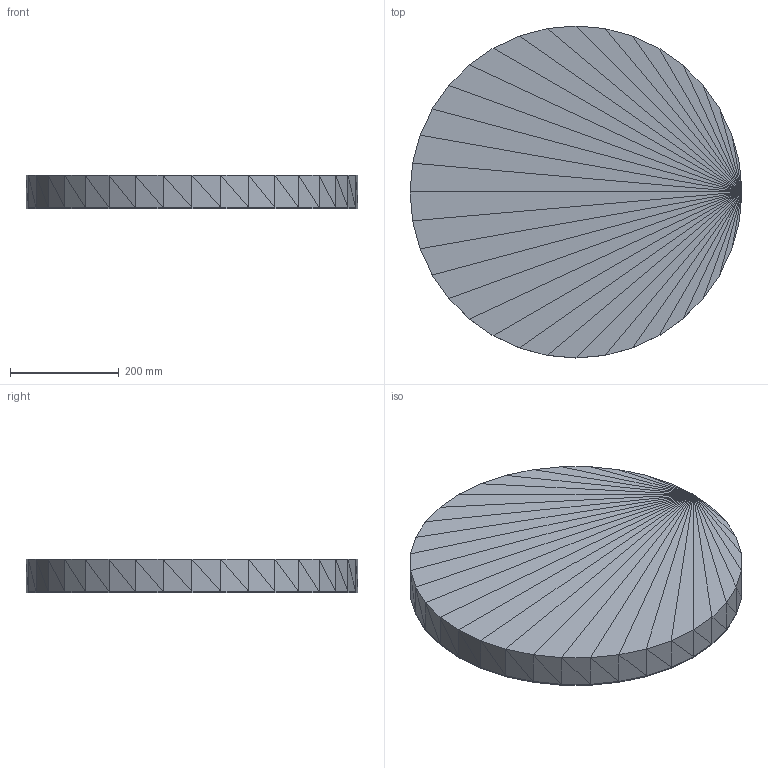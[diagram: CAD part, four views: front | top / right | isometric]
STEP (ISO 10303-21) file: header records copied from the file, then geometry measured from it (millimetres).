
FILE_DESCRIPTION(('ISINAC STEP AP214'),'2;1');
FILE_NAME('ISINAC_CIR.610_60mm_IMANTADA','2026-05-03T10:49:20',('ISINAC'),('www.isinac.com'),'ISINAC BIM Generator 1.0','','');
FILE_SCHEMA(('AUTOMOTIVE_DESIGN'));
Length unit declared in the file: millimetre
Products named in the file (1): ISINAC_CIR.610_60mm_IMANTADA
Bounding box: 610 x 610 x 62 mm (x, y, z)
Surface area: 1281725 mm2 (no closed solid volume)
Topology: 0 solids, 280 shells, 280 faces, 840 edges, 840 vertices
Faces by surface type: plane 280
Entity records: 3093 total; most frequent: CARTESIAN_POINT 1120, DIRECTION 560, POLY_LOOP 280, FACE_OUTER_BOUND 280, AXIS2_PLACEMENT_3D 280, PLANE 280, FACE_SURFACE 280, CLOSED_SHELL 1
